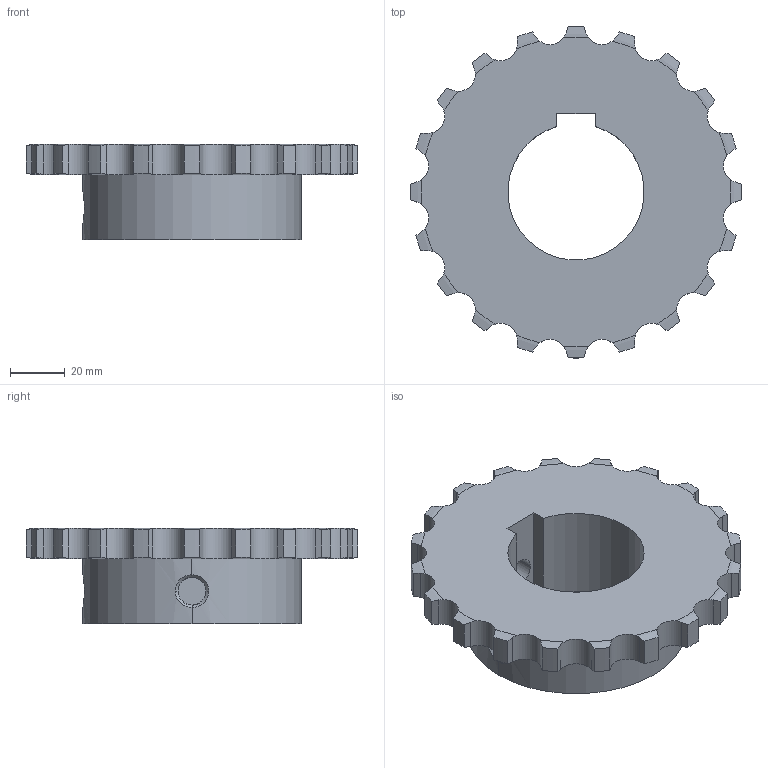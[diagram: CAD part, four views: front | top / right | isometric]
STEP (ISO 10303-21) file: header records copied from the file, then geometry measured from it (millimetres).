
FILE_DESCRIPTION((''),'2;1');
FILE_NAME('510-401-5020_PRT','2021-02-13T',('Brieden'),('Brieden'),'PRO/ENGINEER BY PARAMETRIC TECHNOLOGY CORPORATION, 2010160','PRO/ENGINEER BY PARAMETRIC TECHNOLOGY CORPORATION, 2010160','');
FILE_SCHEMA(('AUTOMOTIVE_DESIGN { 1 0 10303 214 1 1 1 1 }'));
Length unit declared in the file: millimetre
Products named in the file (1): 510-401-5020_PRT
Bounding box: 121.76 x 121.76 x 35 mm (x, y, z)
Volume: 163567.3 mm3; surface area: 34668 mm2
Topology: 1 solids, 1 shells, 140 faces, 405 edges, 268 vertices
Faces by surface type: cylinder 87, torus 40, plane 7, bspline 6
Entity records: 6974 total; most frequent: CARTESIAN_POINT 2228, ORIENTED_EDGE 810, DIRECTION 631, PRESENTATION_STYLE_ASSIGNMENT 406, STYLED_ITEM 406, CURVE_STYLE 405, EDGE_CURVE 405, VERTEX_POINT 268
